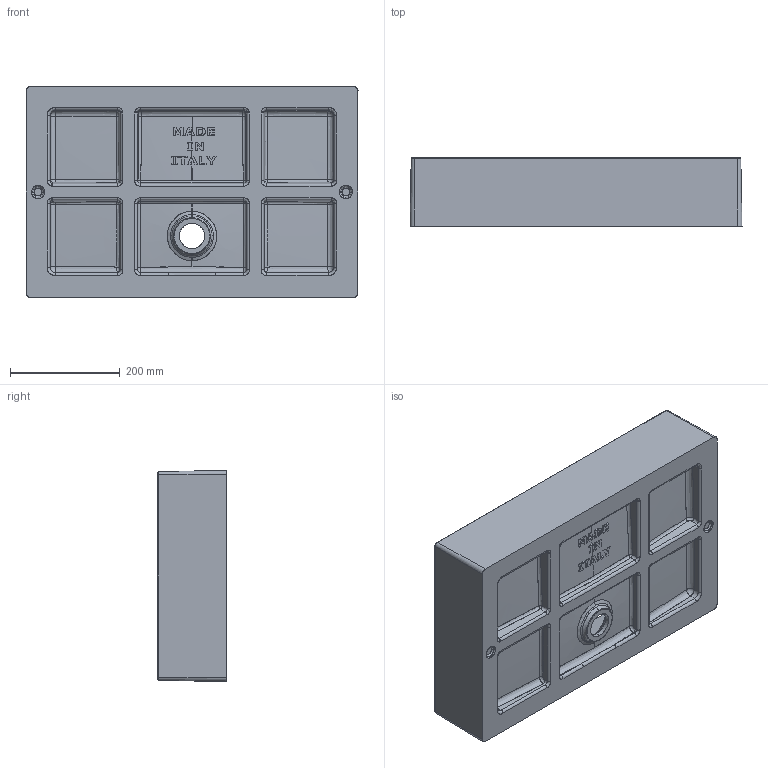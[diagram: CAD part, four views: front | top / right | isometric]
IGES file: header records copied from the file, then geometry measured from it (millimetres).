
Start section: SolidWorks IGES file using analytic representation for surfaces
Global section: file name: C:\Users\User\Desktop\nuovi slim square\box slim square 60 x 46  art\Slim square Lavabo Appoggio 60.IGS; native system: SolidWorks 2014; preprocessor: SolidWorks 2014; author: User; date: 160608.122852; units: millimetre
Bounding box: 604.36 x 125 x 384.36 mm (x, y, z)
Surface area: 872836.9 mm2 (no closed solid volume)
Topology: 0 solids, 0 shells, 380 faces, 3895 edges, 3893 vertices
Faces by surface type: bspline 261, revolution 119
